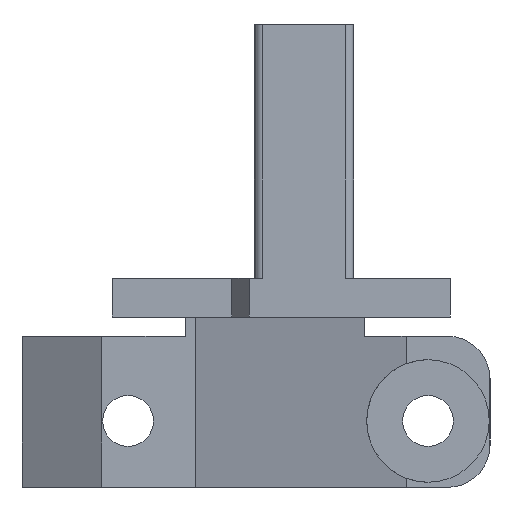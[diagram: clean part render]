
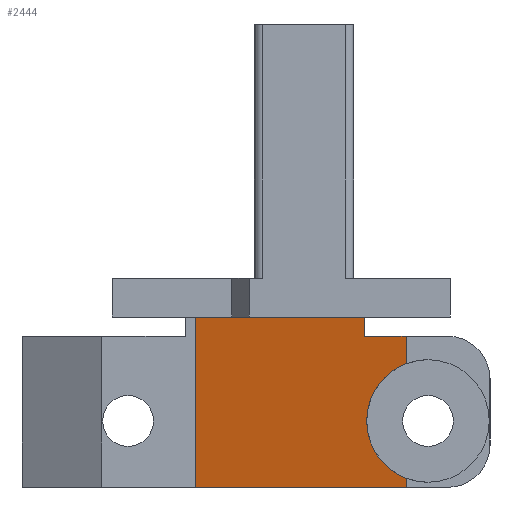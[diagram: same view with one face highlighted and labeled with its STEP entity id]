
A CAD part, left-side view. The second image highlights one B-rep face of the part: STEP entity #2444.
In plain terms, the highlighted planar face has unit normal (-0.962, 0.274, 0).
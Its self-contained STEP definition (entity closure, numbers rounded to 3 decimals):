
#79 = CARTESIAN_POINT ( 'NONE',  ( 172.85, 81.938, 20.315 ) ) ;
#80 = VECTOR ( 'NONE', #138, 1000. ) ;
#81 = DIRECTION ( 'NONE',  ( 0., 0., 1. ) ) ;
#82 = VECTOR ( 'NONE', #81, 1000. ) ;
#83 = CARTESIAN_POINT ( 'NONE',  ( 172.85, 81.938, 2.45 ) ) ;
#85 = CARTESIAN_POINT ( 'NONE',  ( 174.242, 86.83, 20.315 ) ) ;
#86 = CARTESIAN_POINT ( 'NONE',  ( 179.93, 106.816, 2.45 ) ) ;
#87 = LINE ( 'NONE', #86, #80 ) ;
#98 = LINE ( 'NONE', #83, #82 ) ;
#138 = DIRECTION ( 'NONE',  ( 0., 0., -1. ) ) ;
#178 = LINE ( 'NONE', #226, #225 ) ;
#183 = CARTESIAN_POINT ( 'NONE',  ( 174.242, 86.83, 22.6 ) ) ;
#224 = DIRECTION ( 'NONE',  ( 0., 0., 1. ) ) ;
#225 = VECTOR ( 'NONE', #224, 1000. ) ;
#226 = CARTESIAN_POINT ( 'NONE',  ( 174.242, 86.83, 2.45 ) ) ;
#307 = DIRECTION ( 'NONE',  ( 0.274, 0.962, 0. ) ) ;
#308 = VECTOR ( 'NONE', #307, 1000. ) ;
#309 = CARTESIAN_POINT ( 'NONE',  ( 174.242, 86.83, 22.6 ) ) ;
#310 = LINE ( 'NONE', #309, #308 ) ;
#368 = DIRECTION ( 'NONE',  ( -0.274, -0.962, 0. ) ) ;
#369 = DIRECTION ( 'NONE',  ( -0.962, 0.274, 0. ) ) ;
#370 = CARTESIAN_POINT ( 'NONE',  ( 172.85, 81.938, 2.45 ) ) ;
#373 = PLANE ( 'NONE',  #377 ) ;
#377 = AXIS2_PLACEMENT_3D ( 'NONE', #370, #369, #368 ) ;
#380 = FACE_OUTER_BOUND ( 'NONE', #2260, .T. ) ;
#478 = LINE ( 'NONE', #520, #517 ) ;
#516 = DIRECTION ( 'NONE',  ( -0.274, -0.962, 0. ) ) ;
#517 = VECTOR ( 'NONE', #516, 1000. ) ;
#520 = CARTESIAN_POINT ( 'NONE',  ( 172.85, 81.938, 2.45 ) ) ;
#914 = CARTESIAN_POINT ( 'NONE',  ( 172.85, 81.938, 17.069 ) ) ;
#915 = CARTESIAN_POINT ( 'NONE',  ( 174.945, 89.3, 14.243 ) ) ;
#916 = CARTESIAN_POINT ( 'NONE',  ( 174.945, 89.3, 6.357 ) ) ;
#917 = CARTESIAN_POINT ( 'NONE',  ( 172.85, 81.938, 3.531 ) ) ;
#919 =( BOUNDED_CURVE ( )  B_SPLINE_CURVE ( 3, ( #917, #916, #915, #914 ),
 .UNSPECIFIED., .F., .T. ) 
 B_SPLINE_CURVE_WITH_KNOTS ( ( 4, 4 ),
 ( 5.079, 7.487 ),
 .UNSPECIFIED. ) 
 CURVE ( )  GEOMETRIC_REPRESENTATION_ITEM ( )  RATIONAL_B_SPLINE_CURVE ( ( 1., 0.572, 0.572, 1. ) ) 
 REPRESENTATION_ITEM ( '' )  );
#925 = CARTESIAN_POINT ( 'NONE',  ( 172.85, 81.938, 3.531 ) ) ;
#944 = CARTESIAN_POINT ( 'NONE',  ( 172.85, 81.938, 17.069 ) ) ;
#1812 = EDGE_CURVE ( 'NONE', #1814, #2772, #4046, .T. ) ;
#1814 = VERTEX_POINT ( 'NONE', #4076 ) ;
#1820 = VERTEX_POINT ( 'NONE', #4045 ) ;
#2062 = EDGE_CURVE ( 'NONE', #2179, #2169, #4452, .T. ) ;
#2114 = VERTEX_POINT ( 'NONE', #4499 ) ;
#2169 = VERTEX_POINT ( 'NONE', #85 ) ;
#2172 = EDGE_CURVE ( 'NONE', #2815, #2179, #98, .T. ) ;
#2174 = EDGE_CURVE ( 'NONE', #1820, #2114, #87, .T. ) ;
#2179 = VERTEX_POINT ( 'NONE', #79 ) ;
#2253 = VERTEX_POINT ( 'NONE', #183 ) ;
#2259 = EDGE_CURVE ( 'NONE', #2169, #2253, #178, .T. ) ;
#2260 = EDGE_LOOP ( 'NONE', ( #2262, #2400, #2445, #2378, #2261, #2401, #2391, #2372 ) ) ;
#2261 = ORIENTED_EDGE ( 'NONE', *, *, #2377, .T. ) ;
#2262 = ORIENTED_EDGE ( 'NONE', *, *, #2771, .T. ) ;
#2372 = ORIENTED_EDGE ( 'NONE', *, *, #1812, .T. ) ;
#2377 = EDGE_CURVE ( 'NONE', #2253, #1820, #310, .T. ) ;
#2378 = ORIENTED_EDGE ( 'NONE', *, *, #2259, .T. ) ;
#2391 = ORIENTED_EDGE ( 'NONE', *, *, #2508, .T. ) ;
#2400 = ORIENTED_EDGE ( 'NONE', *, *, #2172, .T. ) ;
#2401 = ORIENTED_EDGE ( 'NONE', *, *, #2174, .T. ) ;
#2444 = ADVANCED_FACE ( 'NONE', ( #380 ), #373, .T. ) ;
#2445 = ORIENTED_EDGE ( 'NONE', *, *, #2062, .T. ) ;
#2508 = EDGE_CURVE ( 'NONE', #2114, #1814, #478, .T. ) ;
#2771 = EDGE_CURVE ( 'NONE', #2772, #2815, #919, .T. ) ;
#2772 = VERTEX_POINT ( 'NONE', #925 ) ;
#2815 = VERTEX_POINT ( 'NONE', #944 ) ;
#4019 = CARTESIAN_POINT ( 'NONE',  ( 172.85, 81.938, 2.45 ) ) ;
#4024 = DIRECTION ( 'NONE',  ( 0., 0., 1. ) ) ;
#4025 = VECTOR ( 'NONE', #4024, 1000. ) ;
#4045 = CARTESIAN_POINT ( 'NONE',  ( 179.93, 106.816, 22.6 ) ) ;
#4046 = LINE ( 'NONE', #4019, #4025 ) ;
#4076 = CARTESIAN_POINT ( 'NONE',  ( 172.85, 81.938, 2.45 ) ) ;
#4447 = DIRECTION ( 'NONE',  ( 0.274, 0.962, 0. ) ) ;
#4448 = VECTOR ( 'NONE', #4447, 1000. ) ;
#4451 = CARTESIAN_POINT ( 'NONE',  ( 172.85, 81.938, 20.315 ) ) ;
#4452 = LINE ( 'NONE', #4451, #4448 ) ;
#4499 = CARTESIAN_POINT ( 'NONE',  ( 179.93, 106.816, 2.45 ) ) ;
